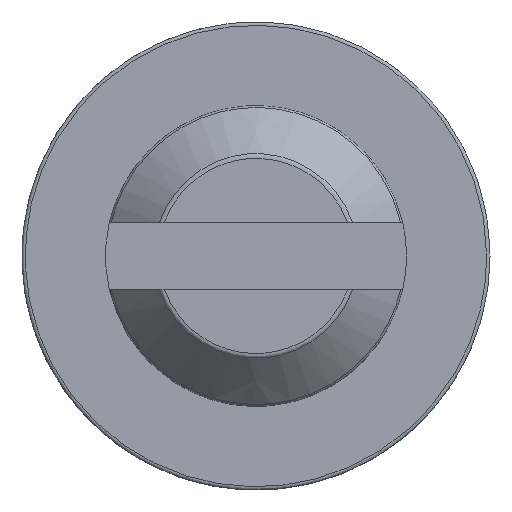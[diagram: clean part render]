
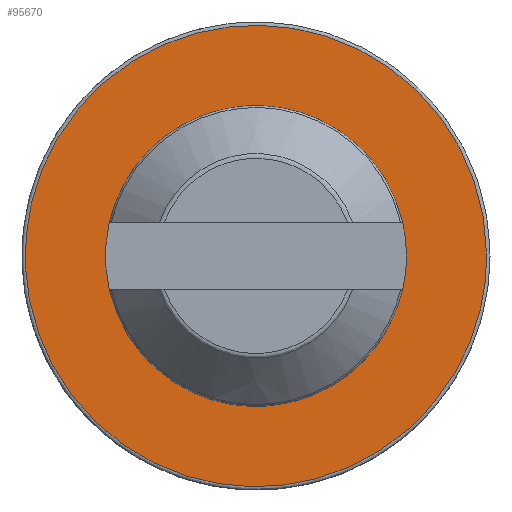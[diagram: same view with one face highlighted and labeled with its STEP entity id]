
A CAD part, top view. The second image highlights one B-rep face of the part: STEP entity #95670.
In plain terms, the highlighted free-form (B-spline) face has degree [2, 1] with [9, 2] control points.
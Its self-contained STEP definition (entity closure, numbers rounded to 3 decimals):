
#94410 = CARTESIAN_POINT ('', (13.9, 7., 9.75));
#94420 = VERTEX_POINT ('', #94410);
#94490 = CARTESIAN_POINT ('', (13.9, 7., 9.75));
#94500 = CARTESIAN_POINT ('', (13.9, 13.9, 9.75));
#94510 = CARTESIAN_POINT ('', (7., 13.9, 9.75));
#94520 = CARTESIAN_POINT ('', (0.1, 13.9, 9.75));
#94530 = CARTESIAN_POINT ('', (0.1, 7., 9.75));
#94540 = CARTESIAN_POINT ('', (0.1, 0.1, 9.75));
#94550 = CARTESIAN_POINT ('', (7., 0.1, 9.75));
#94560 = CARTESIAN_POINT ('', (13.9, 0.1, 9.75));
#94570 = CARTESIAN_POINT ('', (13.9, 7., 9.75));
#94580 = (
   BOUNDED_CURVE ()
   B_SPLINE_CURVE (2, (#94490, #94500, #94510, #94520, #94530, #94540, #94550, #94560, #94570), .UNSPECIFIED., .T., .U.)
   B_SPLINE_CURVE_WITH_KNOTS ((3, 2, 2, 2, 3), (0., 0.25, 0.5, 0.75, 1.), .UNSPECIFIED.)
   CURVE ()
   GEOMETRIC_REPRESENTATION_ITEM ()
   RATIONAL_B_SPLINE_CURVE ((1., 0.707, 1., 0.707, 1., 0.707, 1., 0.707, 1.))
   REPRESENTATION_ITEM ('')
);
#94590 = EDGE_CURVE ('', #94420, #94420, #94580, .T.);
#94930 = CARTESIAN_POINT ('', (11.5, 7., 9.75));
#94940 = VERTEX_POINT ('', #94930);
#94950 = CARTESIAN_POINT ('', (13.9, 7., 9.75));
#94960 = CARTESIAN_POINT ('', (11.5, 7., 9.75));
#94970 = B_SPLINE_CURVE_WITH_KNOTS ('', 1, (#94950, #94960), .UNSPECIFIED., .F., .U., (2, 2), (12.262, 14.662), .UNSPECIFIED.);
#94980 = EDGE_CURVE ('', #94420, #94940, #94970, .T.);
#94990 = ORIENTED_EDGE ('', *, *, #94980, .F.);
#95000 = ORIENTED_EDGE ('', *, *, #94590, .T.);
#95010 = ORIENTED_EDGE ('', *, *, #94980, .T.);
#95020 = CARTESIAN_POINT ('', (11.387, 6., 9.75));
#95030 = VERTEX_POINT ('', #95020);
#95040 = CARTESIAN_POINT ('', (11.387, 6., 9.75));
#95050 = CARTESIAN_POINT ('', (11.5, 6.494, 9.75));
#95060 = CARTESIAN_POINT ('', (11.5, 7., 9.75));
#95070 = (
   BOUNDED_CURVE ()
   B_SPLINE_CURVE (2, (#95040, #95050, #95060), .UNSPECIFIED., .F., .U.)
   B_SPLINE_CURVE_WITH_KNOTS ((3, 3), (0.962, 1.), .UNSPECIFIED.)
   CURVE ()
   GEOMETRIC_REPRESENTATION_ITEM ()
   RATIONAL_B_SPLINE_CURVE ((0.924, 0.955, 1.))
   REPRESENTATION_ITEM ('')
);
#95080 = EDGE_CURVE ('', #95030, #94940, #95070, .T.);
#95090 = ORIENTED_EDGE ('', *, *, #95080, .F.);
#95100 = CARTESIAN_POINT ('', (2.613, 6., 9.75));
#95110 = VERTEX_POINT ('', #95100);
#95120 = CARTESIAN_POINT ('', (2.613, 6., 9.75));
#95130 = CARTESIAN_POINT ('', (3.41, 2.5, 9.75));
#95140 = CARTESIAN_POINT ('', (7., 2.5, 9.75));
#95150 = CARTESIAN_POINT ('', (10.59, 2.5, 9.75));
#95160 = CARTESIAN_POINT ('', (11.387, 6., 9.75));
#95170 = (
   BOUNDED_CURVE ()
   B_SPLINE_CURVE (2, (#95120, #95130, #95140, #95150, #95160), .UNSPECIFIED., .F., .U.)
   B_SPLINE_CURVE_WITH_KNOTS ((3, 2, 3), (0.538, 0.75, 0.962), .UNSPECIFIED.)
   CURVE ()
   GEOMETRIC_REPRESENTATION_ITEM ()
   RATIONAL_B_SPLINE_CURVE ((0.924, 0.752, 1., 0.752, 0.924))
   REPRESENTATION_ITEM ('')
);
#95180 = EDGE_CURVE ('', #95110, #95030, #95170, .T.);
#95190 = ORIENTED_EDGE ('', *, *, #95180, .F.);
#95200 = CARTESIAN_POINT ('', (2.613, 8., 9.75));
#95210 = VERTEX_POINT ('', #95200);
#95220 = CARTESIAN_POINT ('', (2.613, 8., 9.75));
#95230 = CARTESIAN_POINT ('', (2.5, 7.506, 9.75));
#95240 = CARTESIAN_POINT ('', (2.5, 7., 9.75));
#95250 = CARTESIAN_POINT ('', (2.5, 6.494, 9.75));
#95260 = CARTESIAN_POINT ('', (2.613, 6., 9.75));
#95270 = (
   BOUNDED_CURVE ()
   B_SPLINE_CURVE (2, (#95220, #95230, #95240, #95250, #95260), .UNSPECIFIED., .F., .U.)
   B_SPLINE_CURVE_WITH_KNOTS ((3, 2, 3), (0.462, 0.5, 0.538), .UNSPECIFIED.)
   CURVE ()
   GEOMETRIC_REPRESENTATION_ITEM ()
   RATIONAL_B_SPLINE_CURVE ((0.924, 0.955, 1., 0.955, 0.924))
   REPRESENTATION_ITEM ('')
);
#95280 = EDGE_CURVE ('', #95210, #95110, #95270, .T.);
#95290 = ORIENTED_EDGE ('', *, *, #95280, .F.);
#95300 = CARTESIAN_POINT ('', (11.387, 8., 9.75));
#95310 = VERTEX_POINT ('', #95300);
#95320 = CARTESIAN_POINT ('', (11.387, 8., 9.75));
#95330 = CARTESIAN_POINT ('', (10.59, 11.5, 9.75));
#95340 = CARTESIAN_POINT ('', (7., 11.5, 9.75));
#95350 = CARTESIAN_POINT ('', (3.41, 11.5, 9.75));
#95360 = CARTESIAN_POINT ('', (2.613, 8., 9.75));
#95370 = (
   BOUNDED_CURVE ()
   B_SPLINE_CURVE (2, (#95320, #95330, #95340, #95350, #95360), .UNSPECIFIED., .F., .U.)
   B_SPLINE_CURVE_WITH_KNOTS ((3, 2, 3), (0.038, 0.25, 0.462), .UNSPECIFIED.)
   CURVE ()
   GEOMETRIC_REPRESENTATION_ITEM ()
   RATIONAL_B_SPLINE_CURVE ((0.924, 0.752, 1., 0.752, 0.924))
   REPRESENTATION_ITEM ('')
);
#95380 = EDGE_CURVE ('', #95310, #95210, #95370, .T.);
#95390 = ORIENTED_EDGE ('', *, *, #95380, .F.);
#95400 = CARTESIAN_POINT ('', (11.5, 7., 9.75));
#95410 = CARTESIAN_POINT ('', (11.5, 7.506, 9.75));
#95420 = CARTESIAN_POINT ('', (11.387, 8., 9.75));
#95430 = (
   BOUNDED_CURVE ()
   B_SPLINE_CURVE (2, (#95400, #95410, #95420), .UNSPECIFIED., .F., .U.)
   B_SPLINE_CURVE_WITH_KNOTS ((3, 3), (0., 0.038), .UNSPECIFIED.)
   CURVE ()
   GEOMETRIC_REPRESENTATION_ITEM ()
   RATIONAL_B_SPLINE_CURVE ((1., 0.955, 0.924))
   REPRESENTATION_ITEM ('')
);
#95440 = EDGE_CURVE ('', #94940, #95310, #95430, .T.);
#95450 = ORIENTED_EDGE ('', *, *, #95440, .F.);
#95460 = EDGE_LOOP ('', (#94990, #95000, #95010, #95090, #95190, #95290, #95390, #95450));
#95470 = FACE_OUTER_BOUND ('', #95460, .T.);
#95480 = CARTESIAN_POINT ('', (13.9, 7., 9.75));
#95490 = CARTESIAN_POINT ('', (11.5, 7., 9.75));
#95500 = CARTESIAN_POINT ('', (13.9, 13.9, 9.75));
#95510 = CARTESIAN_POINT ('', (11.5, 11.5, 9.75));
#95520 = CARTESIAN_POINT ('', (7., 13.9, 9.75));
#95530 = CARTESIAN_POINT ('', (7., 11.5, 9.75));
#95540 = CARTESIAN_POINT ('', (0.1, 13.9, 9.75));
#95550 = CARTESIAN_POINT ('', (2.5, 11.5, 9.75));
#95560 = CARTESIAN_POINT ('', (0.1, 7., 9.75));
#95570 = CARTESIAN_POINT ('', (2.5, 7., 9.75));
#95580 = CARTESIAN_POINT ('', (0.1, 0.1, 9.75));
#95590 = CARTESIAN_POINT ('', (2.5, 2.5, 9.75));
#95600 = CARTESIAN_POINT ('', (7., 0.1, 9.75));
#95610 = CARTESIAN_POINT ('', (7., 2.5, 9.75));
#95620 = CARTESIAN_POINT ('', (13.9, 0.1, 9.75));
#95630 = CARTESIAN_POINT ('', (11.5, 2.5, 9.75));
#95640 = CARTESIAN_POINT ('', (13.9, 7., 9.75));
#95650 = CARTESIAN_POINT ('', (11.5, 7., 9.75));
#95660 = (
   BOUNDED_SURFACE ()
   B_SPLINE_SURFACE (2, 1, ((#95480, #95490), (#95500, #95510), (#95520, #95530), (#95540, #95550), (#95560, #95570), (#95580, #95590), (#95600, #95610), (#95620, #95630), (#95640, #95650)), .UNSPECIFIED., .T., .F., .U.)
   B_SPLINE_SURFACE_WITH_KNOTS ((3, 2, 2, 2, 3), (2, 2), (0., 0.25, 0.5, 0.75, 1.), (12.262, 14.662), .UNSPECIFIED.)
   SURFACE ()
   GEOMETRIC_REPRESENTATION_ITEM ()
   RATIONAL_B_SPLINE_SURFACE (((1., 1.), (0.707, 0.707), (1., 1.), (0.707, 0.707), (1., 1.), (0.707, 0.707), (1., 1.), (0.707, 0.707), (1., 1.)))
   REPRESENTATION_ITEM ('')
);
#95670 = ADVANCED_FACE ('', (#95470), #95660, .T.);
